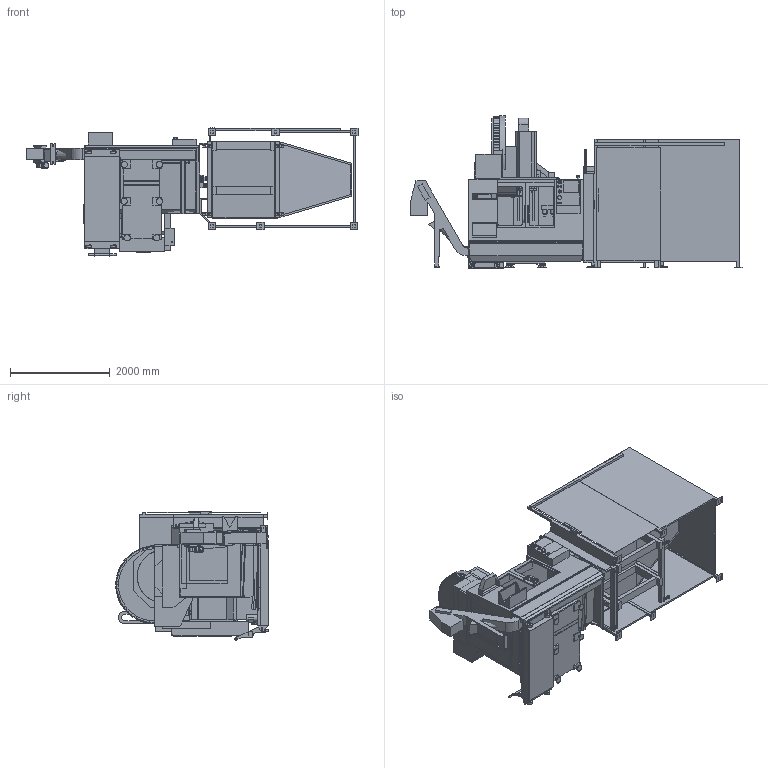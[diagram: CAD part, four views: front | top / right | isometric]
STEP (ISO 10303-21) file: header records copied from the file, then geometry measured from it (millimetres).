
FILE_DESCRIPTION (( 'STEP AP203' ), '1' );
FILE_NAME ('VF-2YT_APL_11_2024.STEP', '2024-11-19T02:13:58', ( '' ), ( '' ), 'SwSTEP 2.0', 'SolidWorks 2022', '' );
FILE_SCHEMA (( 'CONFIG_CONTROL_DESIGN' ));
Length unit declared in the file: inch
Products named in the file (24): VF-2YT_2SSYT 55 gallon Tank; VF-2YT_2SSYT Autowindow; VF-2YT_2SSYT -APL clamping pegs; VF-2YT_APL_11_2024; VF-2YT_2SSYT_Conveyor; VF-2YT_2SSYT Table; VF-2YT_2SSYT_ APL AW-AU Axis Beam; VF-2YT_2SSYT 50 pkt Tool Changer; VF-2YT_2SSYT_ APL Table AV Axis; VF-2YT_2SSYT 30 pkt Tool Changer; VF-2YT_2SSYT  Control Panel; VF-2YT_2SSYT floor; VF-2YT_2SSYT_APL AW-AU Junction Box; VF-2YT Leveling Pads; VF-2YT_2SSYT_ APL Main Body; VF-2YT_2SSYT_ APL Fence; VF-2YT_2SSYT Z Axis; VF-2YT_2SSYT 70 Tool Changer Arm; VF-2YT_2SSYT Saddle; VF-2YT_2SSYT 70 pkt Tool Changer; VF-2YT Base and Column; VF-2YT_2SSYT_Floor for conveyor; VF-2YT Chip Chute; VF-2YT_2SSYT Enclosure
Assembly tree (23 placements, depth 2):
  VF-2YT_APL_11_2024
    VF-2YT Base and Column
    VF-2YT Leveling Pads
    VF-2YT_2SSYT Saddle
    VF-2YT_2SSYT Table
    VF-2YT_2SSYT Z Axis
    VF-2YT_2SSYT 70 Tool Changer Arm
    VF-2YT_2SSYT 30 pkt Tool Changer
    VF-2YT_2SSYT 50 pkt Tool Changer
    VF-2YT_2SSYT 70 pkt Tool Changer
    VF-2YT_2SSYT floor
    VF-2YT_2SSYT Enclosure
    VF-2YT_2SSYT Autowindow
    VF-2YT Chip Chute
    VF-2YT_2SSYT  Control Panel
    VF-2YT_2SSYT 55 gallon Tank
    VF-2YT_2SSYT_ APL Main Body
    VF-2YT_2SSYT_ APL Table AV Axis
    VF-2YT_2SSYT_ APL AW-AU Axis Beam
    VF-2YT_2SSYT_APL AW-AU Junction Box
    VF-2YT_2SSYT -APL clamping pegs
    VF-2YT_2SSYT_ APL Fence
    VF-2YT_2SSYT_Floor for conveyor
    VF-2YT_2SSYT_Conveyor
Bounding box: 6652.31 x 3059.61 x 2571.46 mm (x, y, z)
Volume: 5806257851.7 mm3; surface area: 185140073.1 mm2
Topology: 45 solids, 64 shells, 7985 faces, 21829 edges, 14115 vertices
Faces by surface type: plane 5229, cylinder 1645, bspline 587, cone 337, torus 148, sphere 39
Entity records: 271256 total; most frequent: CARTESIAN_POINT 69155, ORIENTED_EDGE 43614, DIRECTION 38230, EDGE_CURVE 21807, VECTOR 15674, LINE 15674, VERTEX_POINT 14115, AXIS2_PLACEMENT_3D 11278
